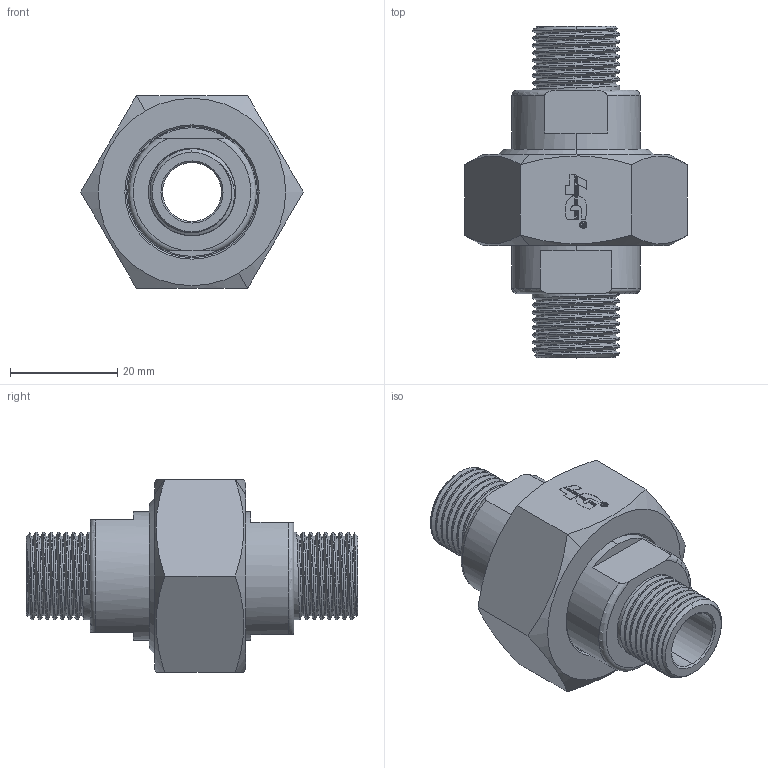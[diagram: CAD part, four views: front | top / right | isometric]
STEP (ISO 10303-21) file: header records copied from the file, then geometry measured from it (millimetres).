
FILE_DESCRIPTION((''),'2;1');
FILE_NAME('76586260800_ASM','2023-06-05T17:11:50',('alfio.taboni'),('CDM Tecnoconsulting'),'CREO PARAMETRIC BY PTC INC, 2020053','CREO PARAMETRIC BY PTC INC, 2020053','');
FILE_SCHEMA(('CONFIG_CONTROL_DESIGN','SHAPE_APPEARANCE_LAYERS_GROUPS'));
Length unit declared in the file: millimetre
Products named in the file (4): 75503060800_AF0; 76802260800_AF0; 76802360800_AF0; 76586260800_ASM
Assembly tree (3 placements, depth 2):
  76586260800_ASM
    75503060800_AF0
    76802260800_AF0
    76802360800_AF0
Bounding box: 41.57 x 62 x 36 mm (x, y, z)
Volume: 24703.1 mm3; surface area: 14307.9 mm2
Topology: 3 solids, 3 shells, 270 faces, 682 edges, 439 vertices
Faces by surface type: plane 101, extrusion 55, cylinder 50, cone 38, bspline 18, torus 8
Entity records: 12766 total; most frequent: CARTESIAN_POINT 6461, ORIENTED_EDGE 1364, DIRECTION 1033, EDGE_CURVE 682, VERTEX_POINT 439, VECTOR 413, LINE 358, AXIS2_PLACEMENT_3D 310
